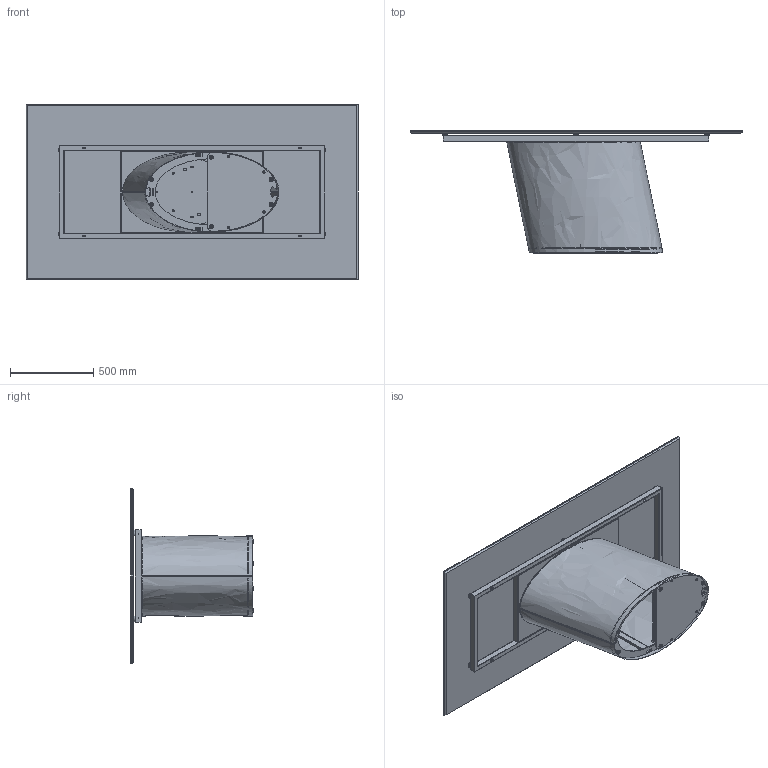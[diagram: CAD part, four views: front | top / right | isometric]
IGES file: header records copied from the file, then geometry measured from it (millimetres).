
Start section: SolidWorks IGES file using analytic representation for surfaces
Global section: file name: Y:\eforma\TECNICO\SOLIDWORKS\E-FORMA\1-TAVOLI\DORADO\02 parts\DO21C.IGS; native system: SolidWorks 2022; preprocessor: SolidWorks 2022; author: eforma.tech; date: 240806.150852; units: millimetre
Bounding box: 2000 x 738 x 1060 mm (x, y, z)
Volume: 45886018.7 mm3; surface area: 15805887.4 mm2
Topology: 50 solids, 50 shells, 1118 faces, 2712 edges, 1708 vertices
Faces by surface type: revolution 674, plane 418, bspline 26
